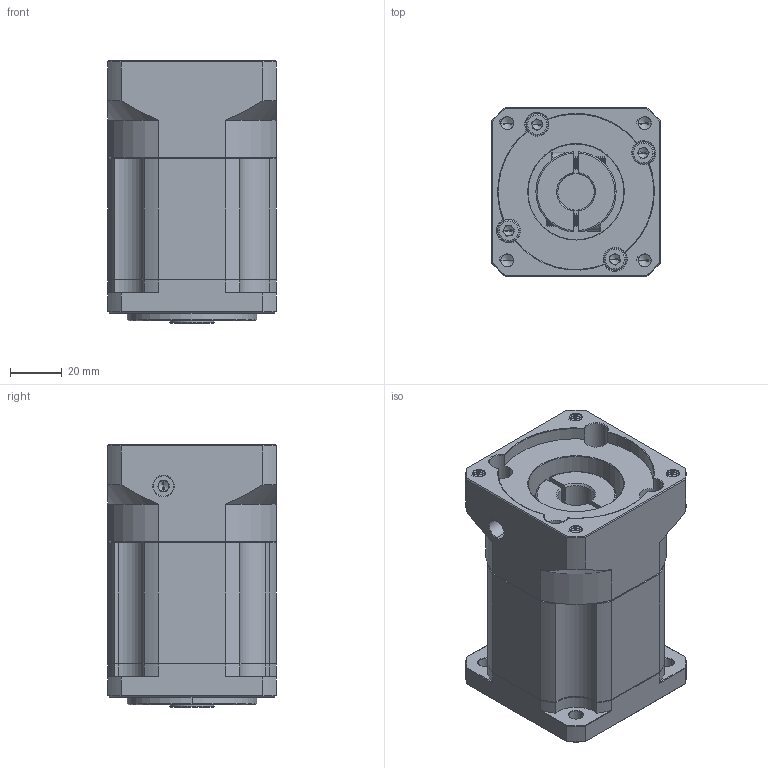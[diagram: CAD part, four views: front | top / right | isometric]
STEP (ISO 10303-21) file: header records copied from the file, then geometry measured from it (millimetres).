
FILE_DESCRIPTION (( 'STEP AP214' ), '1' );
FILE_NAME ('ZB060-K10-L2-P2-14-60-75-M6.step', '2023-08-16T07:11:38', ( '' ), ( '' ), 'SwSTEP 2.0', 'SolidWorks 2016', '' );
FILE_SCHEMA (( 'AUTOMOTIVE_DESIGN' ));
Length unit declared in the file: millimetre
Products named in the file (1): ZB060-K10-L2-P2-14-60-75-M6
Bounding box: 65 x 65 x 101.5 mm (x, y, z)
Volume: 317679.8 mm3; surface area: 57974.2 mm2
Topology: 6 solids, 6 shells, 2115 faces, 5697 edges, 3669 vertices
Faces by surface type: plane 1056, bspline 390, cylinder 353, cone 282, torus 34
Entity records: 111744 total; most frequent: CARTESIAN_POINT 38182, ORIENTED_EDGE 11338, DIRECTION 9044, EDGE_CURVE 5669, VERTEX_POINT 3669, LINE 3618, VECTOR 3618, AXIS2_PLACEMENT_3D 2713
